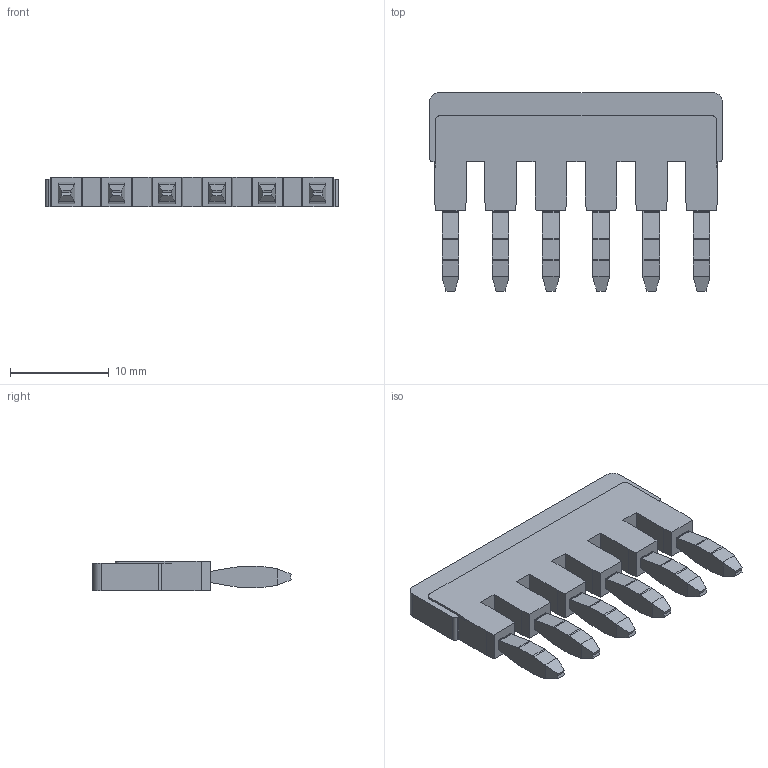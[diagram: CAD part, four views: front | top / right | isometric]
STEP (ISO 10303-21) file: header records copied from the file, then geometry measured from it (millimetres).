
FILE_DESCRIPTION((''),'2;1');
FILE_NAME('06P','2021-03-09T',('Administrator'),(''),'PRO/ENGINEER BY PARAMETRIC TECHNOLOGY CORPORATION, 2012360','PRO/ENGINEER BY PARAMETRIC TECHNOLOGY CORPORATION, 2012360','');
FILE_SCHEMA(('CONFIG_CONTROL_DESIGN'));
Length unit declared in the file: millimetre
Products named in the file (1): 06P
Bounding box: 29.7 x 20.15 x 3 mm (x, y, z)
Volume: 1036 mm3; surface area: 1323.1 mm2
Topology: 1 solids, 1 shells, 186 faces, 536 edges, 358 vertices
Faces by surface type: plane 144, cylinder 42
Entity records: 6100 total; most frequent: CARTESIAN_POINT 1080, ORIENTED_EDGE 1072, DIRECTION 994, EDGE_CURVE 536, VECTOR 450, LINE 450, VERTEX_POINT 358, AXIS2_PLACEMENT_3D 272
